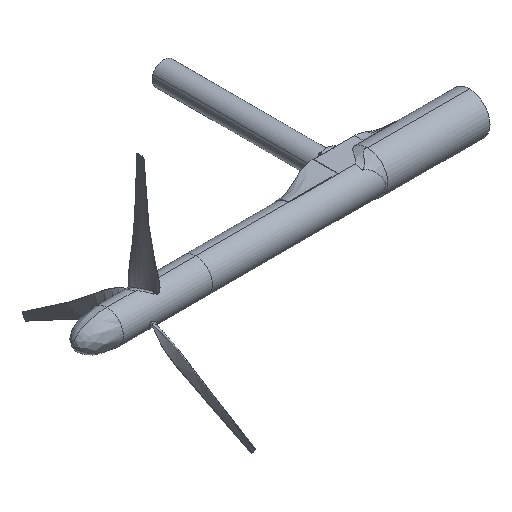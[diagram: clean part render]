
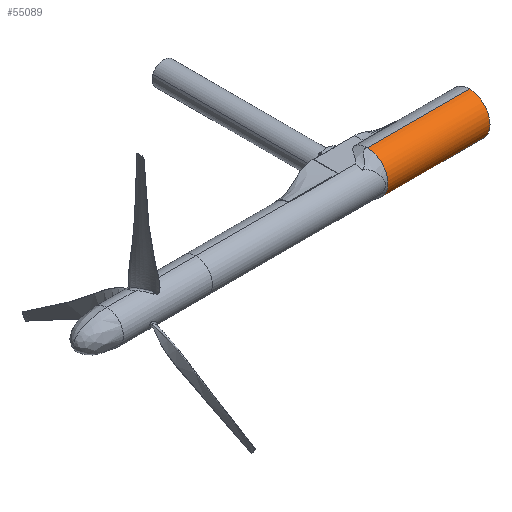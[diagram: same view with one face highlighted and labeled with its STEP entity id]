
A CAD part, isometric view. The second image highlights one B-rep face of the part: STEP entity #55089.
In plain terms, the highlighted cylindrical face has radius 124 mm (diameter 248 mm), a partial arc.
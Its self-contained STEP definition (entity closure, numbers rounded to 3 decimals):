
#427 = CARTESIAN_POINT ( 'NONE',  ( 200., -55.586, -95.737 ) ) ;
#781 = ORIENTED_EDGE ( 'NONE', *, *, #88414, .T. ) ;
#3247 = CARTESIAN_POINT ( 'NONE',  ( 200., 23.626, 124. ) ) ;
#3580 = VECTOR ( 'NONE', #23204, 1000. ) ;
#3619 = ORIENTED_EDGE ( 'NONE', *, *, #40524, .F. ) ;
#5768 = VERTEX_POINT ( 'NONE', #99046 ) ;
#8445 = CARTESIAN_POINT ( 'NONE',  ( 200., -30.565, 111.818 ) ) ;
#8683 = CARTESIAN_POINT ( 'NONE',  ( 200., 23.626, -124. ) ) ;
#8887 = VERTEX_POINT ( 'NONE', #74373 ) ;
#9757 = CARTESIAN_POINT ( 'NONE',  ( 200., -51.05, 99.315 ) ) ;
#10413 = CARTESIAN_POINT ( 'NONE',  ( 200., 9.875, -123.494 ) ) ;
#18428 = EDGE_CURVE ( 'NONE', #5768, #66593, #109753, .T. ) ;
#18995 = AXIS2_PLACEMENT_3D ( 'NONE', #56222, #126715, #117401 ) ;
#19067 = CARTESIAN_POINT ( 'NONE',  ( 200., -72.513, -78.723 ) ) ;
#19728 = CARTESIAN_POINT ( 'NONE',  ( 200., -95.756, 34.469 ) ) ;
#20091 = CARTESIAN_POINT ( 'NONE',  ( 200., 17.862, -123.866 ) ) ;
#20380 = CARTESIAN_POINT ( 'NONE',  ( 200., -100.527, -5.111 ) ) ;
#21041 = CARTESIAN_POINT ( 'NONE',  ( 200., -42.634, -105.117 ) ) ;
#23204 = DIRECTION ( 'NONE',  ( 1., 0., 0. ) ) ;
#28391 = CARTESIAN_POINT ( 'NONE',  ( 200., -21.191, -115.894 ) ) ;
#29051 = CARTESIAN_POINT ( 'NONE',  ( 200., -86.903, 56.775 ) ) ;
#33915 = EDGE_CURVE ( 'NONE', #78004, #107339, #84395, .T. ) ;
#40352 = CARTESIAN_POINT ( 'NONE',  ( 200., -37.677, 108.083 ) ) ;
#40524 = EDGE_CURVE ( 'NONE', #107339, #66593, #84383, .T. ) ;
#40920 = ORIENTED_EDGE ( 'NONE', *, *, #33915, .F. ) ;
#41695 = CARTESIAN_POINT ( 'NONE',  ( 200., 23.626, 124. ) ) ;
#49035 = CARTESIAN_POINT ( 'NONE',  ( 200., -83.003, 63.799 ) ) ;
#49306 = CARTESIAN_POINT ( 'NONE',  ( 816., 23.626, -124. ) ) ;
#49922 = DIRECTION ( 'NONE',  ( 1., 0., 0. ) ) ;
#50994 = CARTESIAN_POINT ( 'NONE',  ( 200., -99.937, -13.122 ) ) ;
#52731 = ORIENTED_EDGE ( 'NONE', *, *, #53279, .T. ) ;
#53279 = EDGE_CURVE ( 'NONE', #78004, #8887, #69021, .T. ) ;
#55089 = ADVANCED_FACE ( 'NONE', ( #68144 ), #65517, .T. ) ;
#56222 = CARTESIAN_POINT ( 'NONE',  ( 200., 23.626, 0. ) ) ;
#59635 = CARTESIAN_POINT ( 'NONE',  ( 200., -61.606, -90.418 ) ) ;
#60291 = CARTESIAN_POINT ( 'NONE',  ( 200., -57.311, 94.282 ) ) ;
#60946 = CARTESIAN_POINT ( 'NONE',  ( 200., -95.11, -36.631 ) ) ;
#61309 = CARTESIAN_POINT ( 'NONE',  ( 200., 23.626, -124. ) ) ;
#61965 = CARTESIAN_POINT ( 'NONE',  ( 200., 21.704, -124. ) ) ;
#65517 = CYLINDRICAL_SURFACE ( 'NONE', #18995, 124. ) ;
#66593 = VERTEX_POINT ( 'NONE', #49306 ) ;
#68144 = FACE_OUTER_BOUND ( 'NONE', #109271, .T. ) ;
#69021 = B_SPLINE_CURVE_WITH_KNOTS ( 'NONE', 3,
 ( #100849, #90886, #71585, #111484, #120158, #8445, #40352, #9757, #60291, #92195, #131445, #49035, #29051, #89581, #19728, #79610, #99549, #20380, #50994, #80917, #60946, #69609, #120814, #110174, #19067, #59635, #427, #21041, #101509, #28391, #121476, #122129, #10413, #130145 ),
 .UNSPECIFIED., .F., .F.,
 ( 4, 2, 2, 2, 2, 2, 2, 2, 2, 2, 2, 2, 2, 2, 2, 2, 4 ),
 ( 0.17, 0.222, 0.274, 0.325, 0.377, 0.429, 0.481, 0.533, 0.585, 0.637, 0.689, 0.741, 0.792, 0.844, 0.896, 0.948, 1. ),
 .UNSPECIFIED. ) ;
#69609 = CARTESIAN_POINT ( 'NONE',  ( 200., -89.422, -51.577 ) ) ;
#71585 = CARTESIAN_POINT ( 'NONE',  ( 200., 7.634, 123.224 ) ) ;
#73738 = AXIS2_PLACEMENT_3D ( 'NONE', #87018, #94536, #113159 ) ;
#74373 = CARTESIAN_POINT ( 'NONE',  ( 200., 17.862, -123.866 ) ) ;
#74738 = ORIENTED_EDGE ( 'NONE', *, *, #18428, .T. ) ;
#78004 = VERTEX_POINT ( 'NONE', #41695 ) ;
#79610 = CARTESIAN_POINT ( 'NONE',  ( 200., -99.194, 18.851 ) ) ;
#80917 = CARTESIAN_POINT ( 'NONE',  ( 200., -97.229, -28.883 ) ) ;
#84383 = CIRCLE ( 'NONE', #73738, 124. ) ;
#84395 = LINE ( 'NONE', #3247, #3580 ) ;
#87018 = CARTESIAN_POINT ( 'NONE',  ( 816., 23.626, 0. ) ) ;
#88414 = EDGE_CURVE ( 'NONE', #8887, #5768, #90517, .T. ) ;
#89581 = CARTESIAN_POINT ( 'NONE',  ( 200., -93.279, 42.11 ) ) ;
#90517 = B_SPLINE_CURVE_WITH_KNOTS ( 'NONE', 3,
 ( #20091, #101870, #61965, #61309 ),
 .UNSPECIFIED., .F., .F.,
 ( 4, 4 ),
 ( 0., 0.068 ),
 .UNSPECIFIED. ) ;
#90886 = CARTESIAN_POINT ( 'NONE',  ( 200., 15.63, 124. ) ) ;
#92195 = CARTESIAN_POINT ( 'NONE',  ( 200., -68.75, 83.107 ) ) ;
#94536 = DIRECTION ( 'NONE',  ( 1., 0., 0. ) ) ;
#98231 = CARTESIAN_POINT ( 'NONE',  ( 816., 23.626, 124. ) ) ;
#99046 = CARTESIAN_POINT ( 'NONE',  ( 200., 23.626, -124. ) ) ;
#99549 = CARTESIAN_POINT ( 'NONE',  ( 200., -100.155, 10.876 ) ) ;
#100849 = CARTESIAN_POINT ( 'NONE',  ( 200., 23.626, 124. ) ) ;
#101509 = CARTESIAN_POINT ( 'NONE',  ( 200., -35.704, -109.179 ) ) ;
#101870 = CARTESIAN_POINT ( 'NONE',  ( 200., 19.782, -123.955 ) ) ;
#107339 = VERTEX_POINT ( 'NONE', #98231 ) ;
#109271 = EDGE_LOOP ( 'NONE', ( #40920, #52731, #781, #74738, #3619 ) ) ;
#109753 = LINE ( 'NONE', #8683, #120258 ) ;
#110174 = CARTESIAN_POINT ( 'NONE',  ( 200., -77.398, -72.347 ) ) ;
#111484 = CARTESIAN_POINT ( 'NONE',  ( 200., -8.059, 120.15 ) ) ;
#113159 = DIRECTION ( 'NONE',  ( 0., 0., -1. ) ) ;
#117401 = DIRECTION ( 'NONE',  ( 0., 0., -1. ) ) ;
#120158 = CARTESIAN_POINT ( 'NONE',  ( 200., -15.756, 117.852 ) ) ;
#120258 = VECTOR ( 'NONE', #49922, 1000. ) ;
#120814 = CARTESIAN_POINT ( 'NONE',  ( 200., -85.853, -58.774 ) ) ;
#121476 = CARTESIAN_POINT ( 'NONE',  ( 200., -13.609, -118.548 ) ) ;
#122129 = CARTESIAN_POINT ( 'NONE',  ( 200., 1.924, -122.348 ) ) ;
#126715 = DIRECTION ( 'NONE',  ( 1., 0., 0. ) ) ;
#130145 = CARTESIAN_POINT ( 'NONE',  ( 200., 17.862, -123.866 ) ) ;
#131445 = CARTESIAN_POINT ( 'NONE',  ( 200., -73.927, 76.964 ) ) ;
